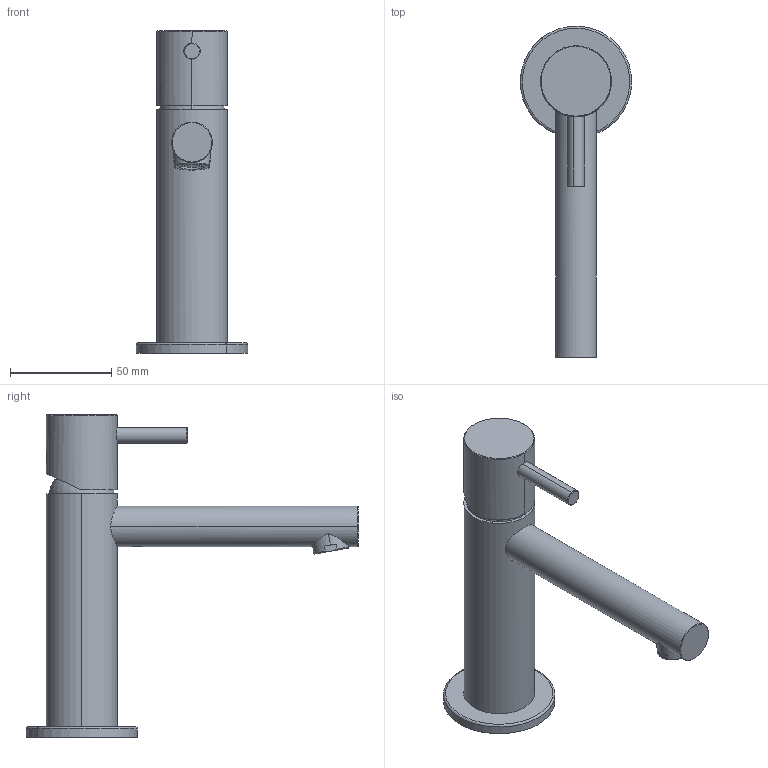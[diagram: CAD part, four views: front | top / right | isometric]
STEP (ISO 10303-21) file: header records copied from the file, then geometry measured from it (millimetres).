
FILE_DESCRIPTION (( 'STEP AP203' ), '1' );
FILE_NAME ('ALE1.STEP', '2016-10-18T14:24:30', ( '' ), ( '' ), 'SwSTEP 2.0', 'SolidWorks 2014', '' );
FILE_SCHEMA (( 'CONFIG_CONTROL_DESIGN' ));
Length unit declared in the file: millimetre
Products named in the file (17): ALE1; GAL575202; GAL910462; CARTBAG009; EU0841_0; EU0824_1; AERA 181001; EU0844_0; GRANO M5x6; GRANO M5x4 ACCIAIO; TAPPHITO01; EU0859_0; GAL575446; OR925178ACS; EU0843_0; GAL910464; OR102ACS
Assembly tree (17 placements, depth 2):
  ALE1
    AERA 181001
    EU0844_0
    GAL575202
    GRANO M5x6
    TAPPHITO01
    EU0841_0
    EU0843_0
    GAL910464
    GAL910462
    EU0824_1
    CARTBAG009
    EU0859_0
    GAL575446
    OR102ACS  x2
    OR925178ACS
    GRANO M5x4 ACCIAIO
Bounding box: 54.96 x 163.84 x 159 mm (x, y, z)
Volume: 115939.8 mm3; surface area: 69071.7 mm2
Topology: 17 solids, 17 shells, 577 faces, 1350 edges, 837 vertices
Faces by surface type: cylinder 243, plane 189, cone 89, torus 50, bspline 6
Entity records: 19416 total; most frequent: CARTESIAN_POINT 4358, DIRECTION 2989, ORIENTED_EDGE 2612, EDGE_CURVE 1306, AXIS2_PLACEMENT_3D 1197, VERTEX_POINT 821, EDGE_LOOP 637, CIRCLE 620
